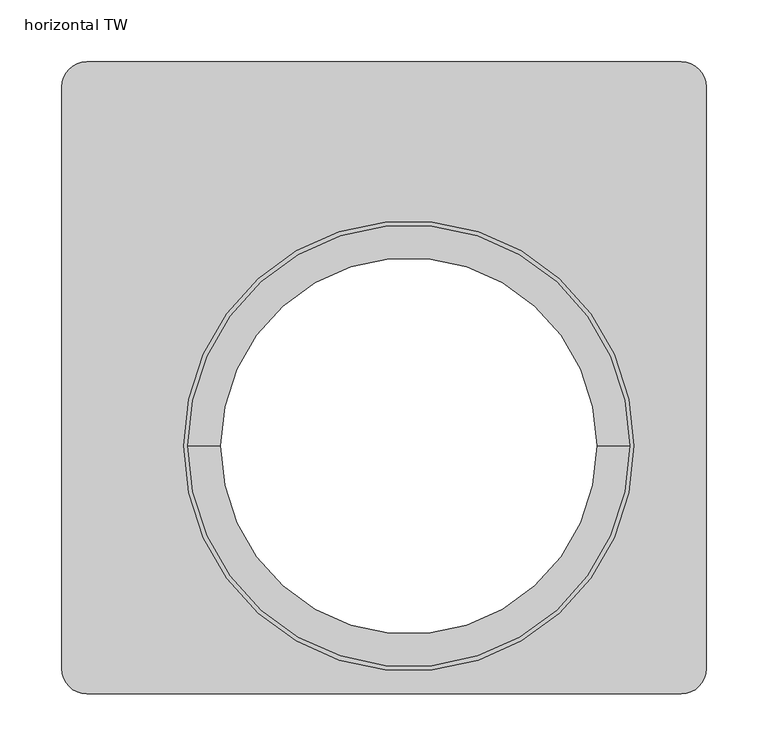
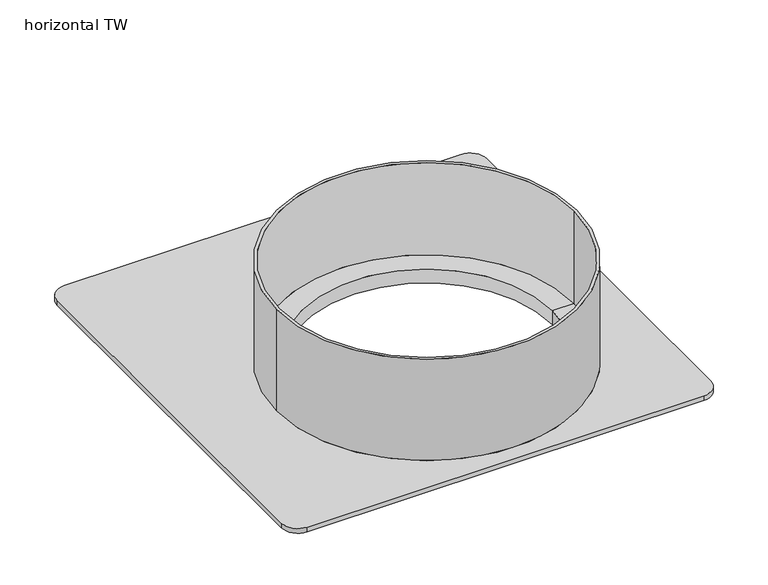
"""IFC4 building model written with IfcOpenShell, lengths in millimetres: unitary equipment geometry, Wavin_MechanicalEquipment_QBicPlusZDoNotUsePipeAdaptor : horizontal TW."""

from ifc_helpers import new_model, si_unit, frame, origin, origin_with_axes, place, context, project, spatial, polyline, circle_curve, source, transform, mapped, element, save
from ifc_brep_helpers import plane_surface, cylinder_surface, revolved_surface, advanced_brep


def horizontal_tw_353f5b95(model_context):
    return source(origin(), model_context, "Body", "AdvancedBrep", [
        advanced_brep(
        [(220.0, 310.0, 6.0), (-260.0, 310.0, 6.0), (-280.0, 290.0, 6.0), (-280.0, -180.0, 6.0), (-260.0, -200.0, 6.0), (220.0, -200.0, 6.0), (240.0, -180.0, 6.0), (240.0, 290.0, 6.0), (181.75, 0.0, 6.0), (-181.75, 0.0, 6.0), (220.0, 310.0, 0.0), (-260.0, 310.0, 0.0), (-280.0, 290.0, 0.0), (-280.0, -180.0, 0.0), (-260.0, -200.0, 0.0), (220.0, -200.0, 0.0), (240.0, -180.0, 0.0), (240.0, 290.0, 0.0), (-181.75, 0.0, 136.0), (181.75, 0.0, 136.0), (-178.25, 0.0, 136.0), (178.25, 0.0, 136.0), (152.0, 0.0, 0.0), (-152.0, 0.0, 0.0), (178.25, 0.0, 18.0), (-178.25, 0.0, 18.0), (-152.0, 0.0, 18.0), (152.0, 0.0, 18.0), (-152.0, 0.0, 6.0), (152.0, 0.0, 6.0)],
        [
            (0, 1),
            (1, 2, circle_curve(frame((-260.0, 290.0, 6.0), z_axis=(0.0, 0.0, 1.0), x_axis=(1.0, 0.0, 0.0)), 20.0)),
            (2, 3),
            (3, 4, circle_curve(frame((-260.0, -180.0, 6.0), z_axis=(0.0, 0.0, 1.0), x_axis=(1.0, 0.0, 0.0)), 20.0)),
            (4, 5),
            (5, 6, circle_curve(frame((220.0, -180.0, 6.0), z_axis=(0.0, 0.0, 1.0), x_axis=(1.0, 0.0, 0.0)), 20.0)),
            (6, 7),
            (7, 0, circle_curve(frame((220.0, 290.0, 6.0), z_axis=(0.0, 0.0, 1.0), x_axis=(1.0, 0.0, 0.0)), 20.0)),
            (8, 9, circle_curve(frame((0.0, 0.0, 6.0), z_axis=(0.0, 0.0, -1.0), x_axis=(1.0, 0.0, 0.0)), 181.75)),
            (9, 8, circle_curve(frame((0.0, 0.0, 6.0), z_axis=(0.0, 0.0, -1.0), x_axis=(1.0, 0.0, 0.0)), 181.75)),
            (0, 10),
            (10, 11),
            (11, 1),
            (2, 12),
            (12, 13),
            (13, 3),
            (4, 14),
            (14, 15),
            (15, 5),
            (6, 16),
            (16, 17),
            (17, 7),
            (18, 19, circle_curve(frame((0.0, 0.0, 136.0), z_axis=(0.0, 0.0, 1.0), x_axis=(1.0, 0.0, 0.0)), 181.75)),
            (19, 18, circle_curve(frame((0.0, 0.0, 136.0), z_axis=(0.0, 0.0, 1.0), x_axis=(1.0, 0.0, 0.0)), 181.75)),
            (20, 21, circle_curve(frame((0.0, 0.0, 136.0), z_axis=(0.0, 0.0, -1.0), x_axis=(-1.0, 0.0, 0.0)), 178.25)),
            (21, 20, circle_curve(frame((0.0, 0.0, 136.0), z_axis=(0.0, 0.0, -1.0), x_axis=(-1.0, 0.0, 0.0)), 178.25)),
            (10, 17, circle_curve(frame((220.0, 290.0, 0.0), z_axis=(0.0, 0.0, -1.0), x_axis=(1.0, 0.0, 0.0)), 20.0)),
            (16, 15, circle_curve(frame((220.0, -180.0, 0.0), z_axis=(0.0, 0.0, -1.0), x_axis=(1.0, 0.0, 0.0)), 20.0)),
            (14, 13, circle_curve(frame((-260.0, -180.0, 0.0), z_axis=(0.0, 0.0, -1.0), x_axis=(1.0, 0.0, 0.0)), 20.0)),
            (12, 11, circle_curve(frame((-260.0, 290.0, 0.0), z_axis=(0.0, 0.0, -1.0), x_axis=(1.0, 0.0, 0.0)), 20.0)),
            (22, 23, circle_curve(frame((0.0, 0.0, 0.0), z_axis=(0.0, 0.0, 1.0), x_axis=(-1.0, 0.0, 0.0)), 152.0)),
            (23, 22, circle_curve(frame((0.0, 0.0, 0.0), z_axis=(0.0, 0.0, 1.0), x_axis=(-1.0, 0.0, 0.0)), 152.0)),
            (18, 9),
            (8, 19),
            (24, 21),
            (20, 25),
            (25, 24, circle_curve(frame((0.0, 0.0, 18.0), z_axis=(0.0, 0.0, -1.0), x_axis=(-1.0, 0.0, 0.0)), 178.25)),
            (24, 25, circle_curve(frame((0.0, 0.0, 18.0), z_axis=(0.0, 0.0, -1.0), x_axis=(-1.0, 0.0, 0.0)), 178.25)),
            (25, 26),
            (26, 27, circle_curve(frame((0.0, 0.0, 18.0), z_axis=(0.0, 0.0, -1.0), x_axis=(-1.0, 0.0, 0.0)), 152.0)),
            (27, 24),
            (27, 26, circle_curve(frame((0.0, 0.0, 18.0), z_axis=(0.0, 0.0, -1.0), x_axis=(-1.0, 0.0, 0.0)), 152.0)),
            (26, 28),
            (28, 23),
            (22, 29),
            (29, 27),
        ],
        [
            plane_surface(frame((-260.0, 310.0, 6.0), z_axis=(0.0, 0.0, 1.0), x_axis=(-1.0, 0.0, 0.0))),
            plane_surface(frame((220.0, 310.0, 6.0), z_axis=(0.0, 1.0, 0.0), x_axis=(0.0, 0.0, -1.0))),
            plane_surface(frame((-280.0, 290.0, 6.0), z_axis=(-1.0, 0.0, 0.0), x_axis=(0.0, 0.0, -1.0))),
            plane_surface(frame((-260.0, -200.0, 6.0), z_axis=(0.0, -1.0, 0.0), x_axis=(0.0, 0.0, -1.0))),
            plane_surface(frame((240.0, -180.0, 6.0), z_axis=(1.0, 0.0, 0.0), x_axis=(0.0, 0.0, -1.0))),
            plane_surface(frame((181.75, 0.0, 136.0), z_axis=(0.0, 0.0, 1.0), x_axis=(0.0, 1.0, 0.0))),
            plane_surface(frame((181.75, 0.0, 0.0), z_axis=(0.0, 0.0, -1.0), x_axis=(0.0, -1.0, 0.0))),
            cylinder_surface(origin_with_axes(), 181.75),
            revolved_surface(polyline([(-178.25, 0.0, 18.0), (-178.25, 0.0, 136.0)]), (0.0, 0.0, -381.0), (0.0, 0.0, -1.0)),
            plane_surface(frame((0.0, 0.0, 18.0), z_axis=(0.0, 0.0, 1.0), x_axis=(-1.0, 0.0, 0.0))),
            revolved_surface(polyline([(-152.0, 0.0, 0.0), (-152.0, 0.0, 18.0)]), (0.0, 0.0, -381.0), (0.0, 0.0, -1.0)),
            cylinder_surface(frame((-260.0, 290.0, 0.0), z_axis=(0.0, 0.0, 1.0), x_axis=(1.0, 0.0, 0.0)), 20.0),
            cylinder_surface(frame((-260.0, -180.0, 0.0), z_axis=(0.0, 0.0, 1.0), x_axis=(1.0, 0.0, 0.0)), 20.0),
            cylinder_surface(frame((220.0, -180.0, 0.0), z_axis=(0.0, 0.0, 1.0), x_axis=(1.0, 0.0, 0.0)), 20.0),
            cylinder_surface(frame((220.0, 290.0, 0.0), z_axis=(0.0, 0.0, 1.0), x_axis=(1.0, 0.0, 0.0)), 20.0),
        ],
        [
            (0, [[1, 2, 3, 4, 5, 6, 7, 8], [9, 10]]),
            (1, [[-1, 11, 12, 13]]),
            (2, [[-3, 14, 15, 16]]),
            (3, [[-5, 17, 18, 19]]),
            (4, [[-7, 20, 21, 22]]),
            (5, [[23, 24], [25, 26]]),
            (6, [[27, -21, 28, -18, 29, -15, 30, -12], [31, 32]]),
            (7, [[-23, 33, -9, 34]]),
            (7, [[-24, -34, -10, -33]]),
            (8, [[35, -25, 36, 37]]),
            (8, [[-35, 38, -36, -26]]),
            (9, [[-37, 39, 40, 41]]),
            (9, [[-38, -41, 42, -39]]),
            (10, [[-40, 43, 44, -31, 45, 46]]),
            (10, [[-42, -46, -45, -32, -44, -43]]),
            (11, [[-2, -13, -30, -14]]),
            (12, [[-4, -16, -29, -17]]),
            (13, [[-6, -19, -28, -20]]),
            (14, [[-8, -22, -27, -11]]),
        ],
    ),
    ])


if __name__ == "__main__":
    model = new_model("IFC4")
    model_context = context("Model", 3, world=origin())
    ifc_project = project(units=[si_unit("LENGTHUNIT", "METRE", prefix="MILLI")], contexts=[model_context])
    site = spatial("IfcSite", under=ifc_project)
    building = spatial("IfcBuilding", under=site)
    placement = place(None, origin())
    horizontal_tw_shape = horizontal_tw_353f5b95(model_context)
    element("IfcUnitaryEquipment", 1, ObjectType="Wavin_MechanicalEquipment_QBicPlusZDoNotUsePipeAdaptor : horizontal TW", at=placement, inside=building, context=model_context, shape_type="MappedRepresentation", body=[
        mapped(horizontal_tw_shape, transform((0.0, 0.0, 0.0), x_axis=(1.0, 0.0, 0.0), y_axis=(0.0, 1.0, 0.0), z_axis=(0.0, 0.0, 1.0))),
    ])
    save(model, "model.ifc")
